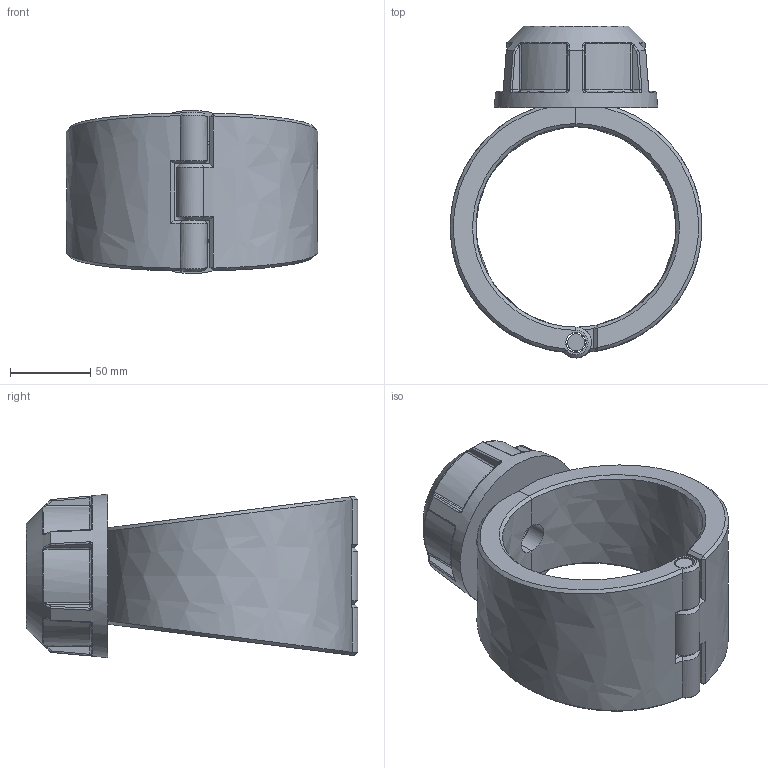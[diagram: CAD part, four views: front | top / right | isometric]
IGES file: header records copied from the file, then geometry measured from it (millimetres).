
Global section: file name: 163000125013; native system: Autodesk Inventor 2019; preprocessor: unknown; author: comp2; date: 20220203.115052; units: millimetre
Bounding box: 156.99 x 207 x 101.92 mm (x, y, z)
Volume: 805619.6 mm3; surface area: 127302.5 mm2
Topology: 4 solids, 4 shells, 203 faces, 486 edges, 293 vertices
Faces by surface type: bspline 203
